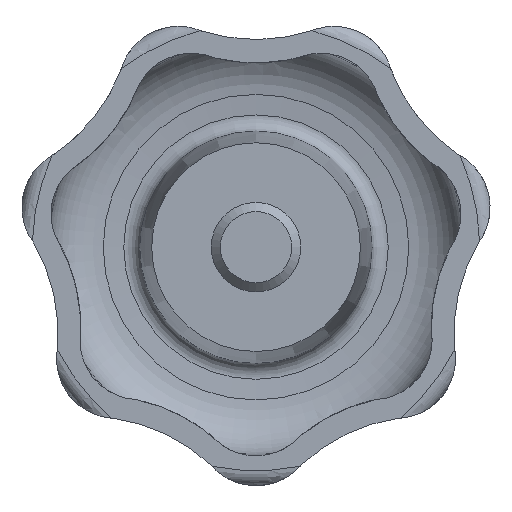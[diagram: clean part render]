
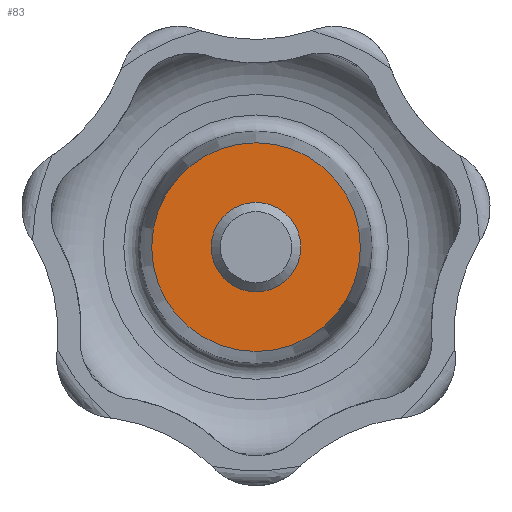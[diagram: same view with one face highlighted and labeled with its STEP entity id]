
A CAD part, front view. The second image highlights one B-rep face of the part: STEP entity #83.
In plain terms, the highlighted planar face has unit normal (0, -1, 0).
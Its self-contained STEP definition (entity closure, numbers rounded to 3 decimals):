
#83 = ADVANCED_FACE( '', ( #167, #168 ), #169, .F. );
#167 = FACE_BOUND( '', #326, .T. );
#168 = FACE_OUTER_BOUND( '', #327, .T. );
#169 = PLANE( '', #328 );
#326 = EDGE_LOOP( '', ( #553 ) );
#327 = EDGE_LOOP( '', ( #554 ) );
#328 = AXIS2_PLACEMENT_3D( '', #555, #556, #557 );
#553 = ORIENTED_EDGE( '', *, *, #1141, .F. );
#554 = ORIENTED_EDGE( '', *, *, #1142, .T. );
#555 = CARTESIAN_POINT( '', ( 7., 0., 0. ) );
#556 = DIRECTION( '', ( 0., 1., 0. ) );
#557 = DIRECTION( '', ( 0., 0., 1. ) );
#1141 = EDGE_CURVE( '', #1391, #1391, #1392, .T. );
#1142 = EDGE_CURVE( '', #1393, #1393, #1394, .T. );
#1391 = VERTEX_POINT( '', #2071 );
#1392 = CIRCLE( '', #2072, 3. );
#1393 = VERTEX_POINT( '', #2073 );
#1394 = CIRCLE( '', #2074, 7. );
#2071 = CARTESIAN_POINT( '', ( 0., 0., -3. ) );
#2072 = AXIS2_PLACEMENT_3D( '', #3043, #3044, #3045 );
#2073 = CARTESIAN_POINT( '', ( 0., 0., -7. ) );
#2074 = AXIS2_PLACEMENT_3D( '', #3046, #3047, #3048 );
#3043 = CARTESIAN_POINT( '', ( 0., 0., 0. ) );
#3044 = DIRECTION( '', ( 0., -1., 0. ) );
#3045 = DIRECTION( '', ( 0., 0., -1. ) );
#3046 = CARTESIAN_POINT( '', ( 0., 0., 0. ) );
#3047 = DIRECTION( '', ( 0., -1., 0. ) );
#3048 = DIRECTION( '', ( 0., 0., -1. ) );
